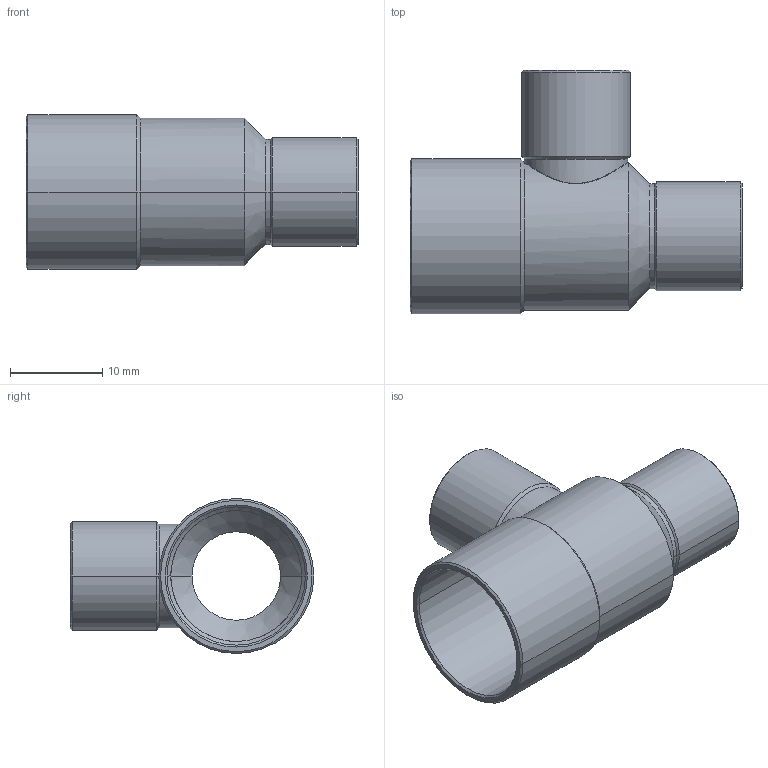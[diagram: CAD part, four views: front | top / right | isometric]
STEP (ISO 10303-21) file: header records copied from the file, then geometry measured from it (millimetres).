
FILE_DESCRIPTION((''),'2;1');
FILE_NAME('P:\Bouwmaten\z-maattekeningen 3D\5000\5130\5130151010.stp','2005-10-26T11:52:40',('Kris'),(''),'Autodesk Inventor 8','Autodesk Inventor 8','');
FILE_SCHEMA(('AUTOMOTIVE_DESIGN { 1 0 10303 214 1 1 1 1 }'));
Length unit declared in the file: millimetre
Products named in the file (1): 5130151010
Bounding box: 36 x 26.4 x 16.8 mm (x, y, z)
Volume: 1728.3 mm3; surface area: 3945.9 mm2
Topology: 1 solids, 1 shells, 59 faces, 130 edges, 72 vertices
Faces by surface type: cone 28, cylinder 26, plane 3, bspline 2
Entity records: 2176 total; most frequent: CARTESIAN_POINT 855, DIRECTION 286, ORIENTED_EDGE 260, EDGE_CURVE 130, AXIS2_PLACEMENT_3D 117, VERTEX_POINT 72, EDGE_LOOP 62, CIRCLE 59
